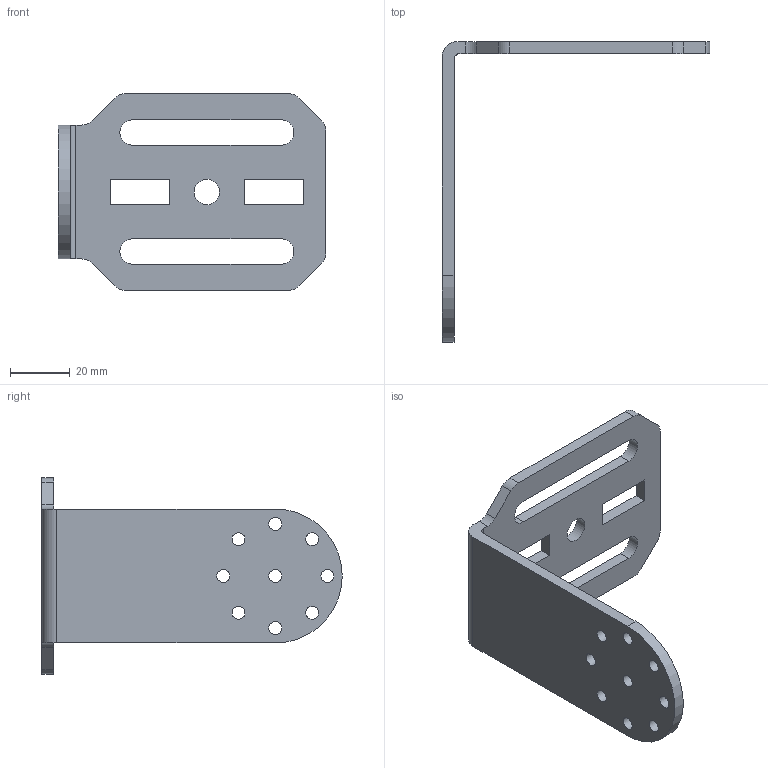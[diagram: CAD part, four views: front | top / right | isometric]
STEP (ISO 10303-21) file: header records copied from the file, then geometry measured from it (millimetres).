
FILE_DESCRIPTION(/* description */ (''),/* implementation_level */ '2;1');
FILE_NAME(/* name */ 'MP031627_01.stp',/* time_stamp */ '2020-07-07T15:22:11+02:00',/* author */ (''),/* organization */ (''),/* preprocessor_version */ 'ST-DEVELOPER v16.7',/* originating_system */ 'SIEMENS PLM Software NX 12.0',/* authorisation */ '');
FILE_SCHEMA (('AUTOMOTIVE_DESIGN { 1 0 10303 214 3 1 1 1 }'));
Length unit declared in the file: millimetre
Products named in the file (1): MP031627_01_1-BRACKET M320 FRAME SIDE_ ADJUSTABLE VERSION.
Bounding box: 90 x 101 x 66 mm (x, y, z)
Volume: 32441.5 mm3; surface area: 20087.8 mm2
Topology: 1 solids, 1 shells, 50 faces, 151 edges, 103 vertices
Faces by surface type: plane 25, cylinder 25
Full cylindrical faces by diameter (mm): 4.35 x9, 8.5 x1
Entity records: 1688 total; most frequent: DIRECTION 286, CARTESIAN_POINT 281, ORIENTED_EDGE 268, EDGE_CURVE 134, AXIS2_PLACEMENT_3D 101, VERTEX_POINT 96, EDGE_LOOP 88, LINE 84
